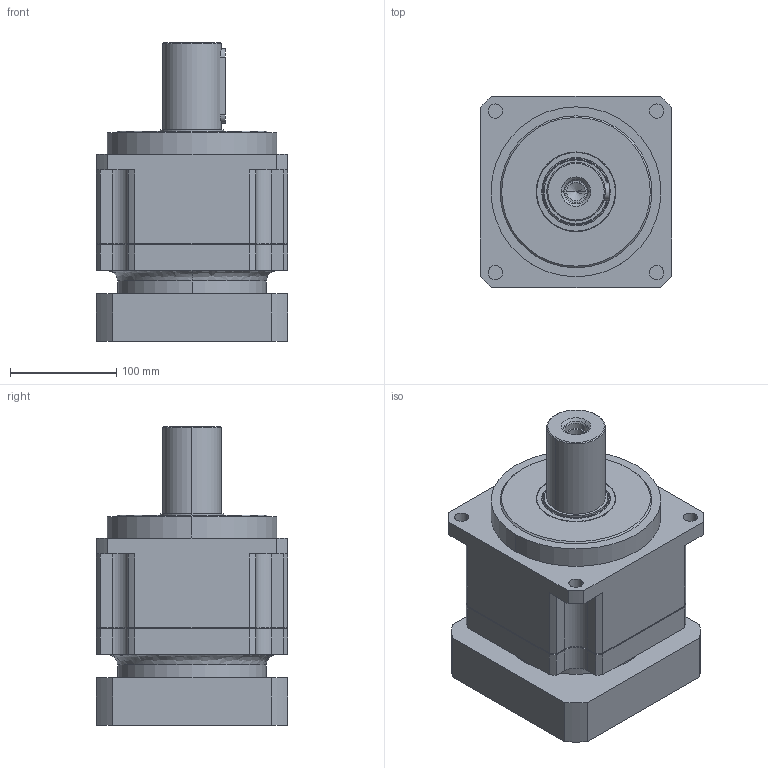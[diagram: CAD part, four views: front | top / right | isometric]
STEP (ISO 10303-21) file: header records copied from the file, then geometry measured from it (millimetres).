
FILE_DESCRIPTION (( 'STEP AP203' ), '1' );
FILE_NAME ('PLG180-L1.STEP', '2020-08-12T03:20:10', ( 'Windows User' ), ( 'P R C' ), 'SwSTEP 2.0', 'SolidWorks 2017', '' );
FILE_SCHEMA (( 'CONFIG_CONTROL_DESIGN' ));
Length unit declared in the file: millimetre
Products named in the file (7): 内六角圆柱头螺钉M10×35; TC60-75-9_TC-34.9-55-7; PLG180-L1; PLG180薊粣ん; PLG180珨撰蟀諉啣 180選 114.3x10 200xM12 45L; PLG180齿圈转架; 邧埴瑩 16x10x70
Assembly tree (6 placements, depth 2):
  PLG180-L1
    PLG180齿圈转架
    PLG180薊粣ん
    PLG180珨撰蟀諉啣 180選 114.3x10 200xM12 45L
    邧埴瑩 16x10x70
    TC60-75-9_TC-34.9-55-7
    内六角圆柱头螺钉M10×35
Bounding box: 180 x 180 x 281.5 mm (x, y, z)
Volume: 5097156.8 mm3; surface area: 413475.1 mm2
Topology: 6 solids, 6 shells, 415 faces, 1054 edges, 662 vertices
Faces by surface type: cylinder 197, plane 134, cone 62, bspline 22
Entity records: 15052 total; most frequent: CARTESIAN_POINT 4085, DIRECTION 2279, ORIENTED_EDGE 2048, EDGE_CURVE 1024, AXIS2_PLACEMENT_3D 896, VERTEX_POINT 662, EDGE_LOOP 506, CIRCLE 494
